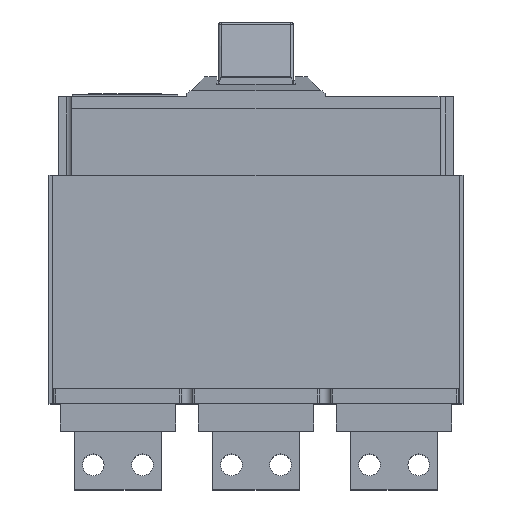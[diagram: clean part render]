
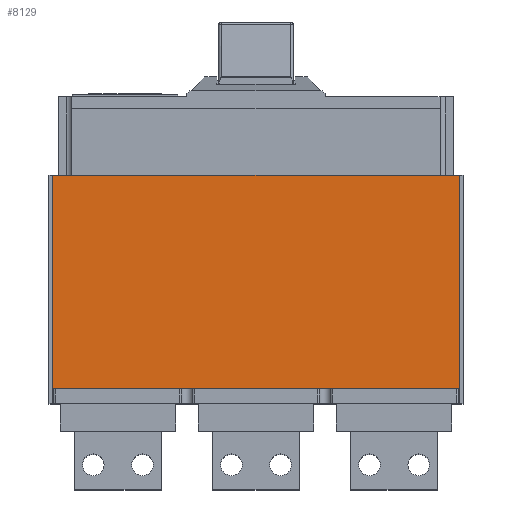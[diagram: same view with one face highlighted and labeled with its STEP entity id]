
A CAD part, top view. The second image highlights one B-rep face of the part: STEP entity #8129.
In plain terms, the highlighted planar face has unit normal (0, 0, 1).
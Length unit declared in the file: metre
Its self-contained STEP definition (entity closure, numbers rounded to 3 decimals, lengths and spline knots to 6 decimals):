
#625=FACE_OUTER_BOUND('',#1139,.T.);
#1139=EDGE_LOOP('',(#6599,#6600,#6601,#6602,#6603,#6604,#6605,#6606));
#1930=LINE('',#12515,#2935);
#1939=LINE('',#12534,#2944);
#1944=LINE('',#12544,#2949);
#1976=LINE('',#12640,#2981);
#1977=LINE('',#12642,#2982);
#1978=LINE('',#12644,#2983);
#1979=LINE('',#12645,#2984);
#1980=LINE('',#12646,#2985);
#2935=VECTOR('',#10215,0.1157);
#2944=VECTOR('',#10228,0.1157);
#2949=VECTOR('',#10235,0.0075);
#2981=VECTOR('',#10331,0.0075);
#2982=VECTOR('',#10334,0.205);
#2983=VECTOR('',#10337,0.0005);
#2984=VECTOR('',#10338,0.206);
#2985=VECTOR('',#10339,0.0005);
#3787=VERTEX_POINT('',#12513);
#3788=VERTEX_POINT('',#12514);
#3795=VERTEX_POINT('',#12531);
#3796=VERTEX_POINT('',#12533);
#3798=VERTEX_POINT('',#12538);
#3800=VERTEX_POINT('',#12542);
#3831=VERTEX_POINT('',#12636);
#3832=VERTEX_POINT('',#12638);
#4758=EDGE_CURVE('',#3787,#3788,#1930,.T.);
#4767=EDGE_CURVE('',#3796,#3795,#1939,.T.);
#4772=EDGE_CURVE('',#3798,#3800,#1944,.T.);
#4820=EDGE_CURVE('',#3832,#3831,#1976,.T.);
#4821=EDGE_CURVE('',#3831,#3800,#1977,.T.);
#4822=EDGE_CURVE('',#3788,#3832,#1978,.T.);
#4823=EDGE_CURVE('',#3787,#3796,#1979,.T.);
#4824=EDGE_CURVE('',#3798,#3795,#1980,.T.);
#6599=ORIENTED_EDGE('',*,*,#4820,.F.);
#6600=ORIENTED_EDGE('',*,*,#4822,.F.);
#6601=ORIENTED_EDGE('',*,*,#4758,.F.);
#6602=ORIENTED_EDGE('',*,*,#4823,.T.);
#6603=ORIENTED_EDGE('',*,*,#4767,.T.);
#6604=ORIENTED_EDGE('',*,*,#4824,.F.);
#6605=ORIENTED_EDGE('',*,*,#4772,.T.);
#6606=ORIENTED_EDGE('',*,*,#4821,.F.);
#7698=PLANE('',#8680);
#8129=ADVANCED_FACE('',(#625),#7698,.T.);
#8680=AXIS2_PLACEMENT_3D('',#12643,#10335,#10336);
#10215=DIRECTION('',(0.,-1.,0.));
#10228=DIRECTION('',(0.,-1.,0.));
#10235=DIRECTION('',(0.,1.,0.));
#10331=DIRECTION('',(0.,1.,0.));
#10334=DIRECTION('',(-1.,0.,0.));
#10335=DIRECTION('center_axis',(0.,0.,1.));
#10336=DIRECTION('ref_axis',(1.,0.,0.));
#10337=DIRECTION('',(-1.,0.,0.));
#10338=DIRECTION('',(-1.,0.,0.));
#10339=DIRECTION('',(-1.,0.,0.));
#12513=CARTESIAN_POINT('',(0.103,0.,0.117));
#12514=CARTESIAN_POINT('',(0.103,-0.1157,0.117));
#12515=CARTESIAN_POINT('',(0.103,0.,0.117));
#12531=CARTESIAN_POINT('',(-0.103,-0.1157,0.117));
#12533=CARTESIAN_POINT('',(-0.103,0.,0.117));
#12534=CARTESIAN_POINT('',(-0.103,0.,0.117));
#12538=CARTESIAN_POINT('',(-0.1025,-0.1157,0.117));
#12542=CARTESIAN_POINT('',(-0.1025,-0.1082,0.117));
#12544=CARTESIAN_POINT('',(-0.1025,-0.1157,0.117));
#12636=CARTESIAN_POINT('',(0.1025,-0.1082,0.117));
#12638=CARTESIAN_POINT('',(0.1025,-0.1157,0.117));
#12640=CARTESIAN_POINT('',(0.1025,-0.1157,0.117));
#12642=CARTESIAN_POINT('',(0.1025,-0.1082,0.117));
#12643=CARTESIAN_POINT('Origin',(-0.103,0.,0.117));
#12644=CARTESIAN_POINT('',(0.103,-0.1157,0.117));
#12645=CARTESIAN_POINT('',(0.103,0.,0.117));
#12646=CARTESIAN_POINT('',(-0.1025,-0.1157,0.117));
